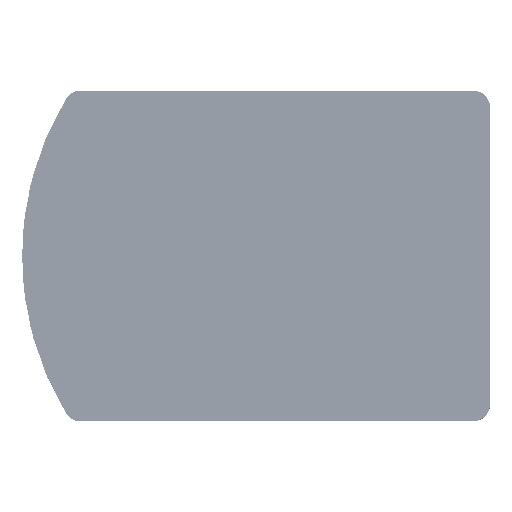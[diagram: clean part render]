
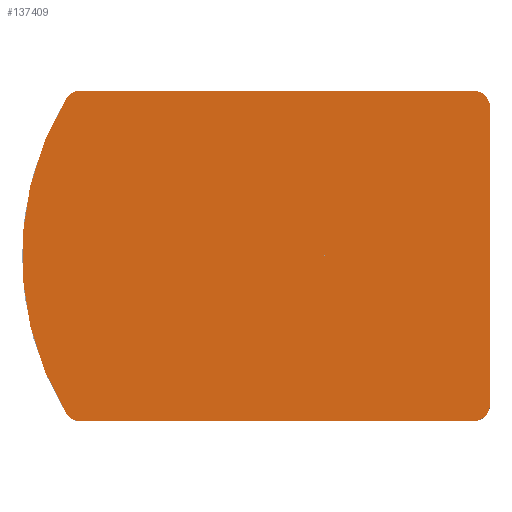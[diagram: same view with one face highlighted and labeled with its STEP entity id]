
A CAD part, top view. The second image highlights one B-rep face of the part: STEP entity #137409.
In plain terms, the highlighted planar face has unit normal (0, 0, 1) as drawn and (0, 0, -1) by its records, which use the part's own axes.
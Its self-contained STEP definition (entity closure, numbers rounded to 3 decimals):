
#8089 = DIRECTION ( 'NONE',  ( -1., 0., 0. ) ) ;
#11737 = VERTEX_POINT ( 'NONE', #260368 ) ;
#16893 = FACE_BOUND ( 'NONE', #127861, .T. ) ;
#17107 = AXIS2_PLACEMENT_3D ( 'NONE', #189164, #230365, #42558 ) ;
#19946 = AXIS2_PLACEMENT_3D ( 'NONE', #263953, #54088, #177717 ) ;
#26245 = ORIENTED_EDGE ( 'NONE', *, *, #205110, .T. ) ;
#28155 = AXIS2_PLACEMENT_3D ( 'NONE', #71373, #238922, #8089 ) ;
#38801 = LINE ( 'NONE', #141262, #114301 ) ;
#42558 = DIRECTION ( 'NONE',  ( -1., 0., 0. ) ) ;
#43201 = AXIS2_PLACEMENT_3D ( 'NONE', #166965, #229181, #271495 ) ;
#48587 = ORIENTED_EDGE ( 'NONE', *, *, #105231, .T. ) ;
#51389 = CIRCLE ( 'NONE', #188074, 0.1 ) ;
#54088 = DIRECTION ( 'NONE',  ( 0., 0., -1. ) ) ;
#55251 = VERTEX_POINT ( 'NONE', #66344 ) ;
#55741 = CARTESIAN_POINT ( 'NONE',  ( 82., 60., 0. ) ) ;
#63486 = EDGE_CURVE ( 'NONE', #55251, #154496, #178010, .T. ) ;
#65029 = CIRCLE ( 'NONE', #203639, 55. ) ;
#66344 = CARTESIAN_POINT ( 'NONE',  ( 7.995, 58.558, 0. ) ) ;
#66940 = CIRCLE ( 'NONE', #28155, 3. ) ;
#71373 = CARTESIAN_POINT ( 'NONE',  ( 82., 57., 0. ) ) ;
#74088 = VECTOR ( 'NONE', #220156, 1000. ) ;
#76250 = DIRECTION ( 'NONE',  ( -1., 0., 0. ) ) ;
#77637 = LINE ( 'NONE', #222692, #153100 ) ;
#87575 = ORIENTED_EDGE ( 'NONE', *, *, #166259, .T. ) ;
#92368 = CARTESIAN_POINT ( 'NONE',  ( 55., 30., 0. ) ) ;
#95729 = ORIENTED_EDGE ( 'NONE', *, *, #149071, .F. ) ;
#97232 = EDGE_CURVE ( 'NONE', #11737, #220437, #225072, .T. ) ;
#97835 = CARTESIAN_POINT ( 'NONE',  ( 10.559, 0., 0. ) ) ;
#98342 = VERTEX_POINT ( 'NONE', #231907 ) ;
#98791 = EDGE_LOOP ( 'NONE', ( #196111, #87575, #95729, #138338, #218600, #26245, #248251, #231695 ) ) ;
#105231 = EDGE_CURVE ( 'NONE', #98342, #154173, #51389, .T. ) ;
#105629 = EDGE_CURVE ( 'NONE', #206149, #220437, #162613, .T. ) ;
#109682 = CARTESIAN_POINT ( 'NONE',  ( 7.995, 1.442, 0. ) ) ;
#114301 = VECTOR ( 'NONE', #182319, 1000. ) ;
#115049 = DIRECTION ( 'NONE',  ( -1., 0., 0. ) ) ;
#127861 = EDGE_LOOP ( 'NONE', ( #48587, #268183 ) ) ;
#131254 = PLANE ( 'NONE',  #242823 ) ;
#133725 = DIRECTION ( 'NONE',  ( 1., 0., 0. ) ) ;
#135247 = DIRECTION ( 'NONE',  ( 0., 0., -1. ) ) ;
#137409 = ADVANCED_FACE ( 'NONE', ( #16893, #170983 ), #131254, .T. ) ;
#138161 = CARTESIAN_POINT ( 'NONE',  ( 82., 0., 0. ) ) ;
#138338 = ORIENTED_EDGE ( 'NONE', *, *, #63486, .T. ) ;
#139067 = DIRECTION ( 'NONE',  ( 0., 0., 1. ) ) ;
#141262 = CARTESIAN_POINT ( 'NONE',  ( 85., 0., 0. ) ) ;
#141781 = CARTESIAN_POINT ( 'NONE',  ( 55., 30., 0. ) ) ;
#142034 = DIRECTION ( 'NONE',  ( 1., 0., 0. ) ) ;
#142875 = EDGE_CURVE ( 'NONE', #11737, #205740, #38801, .T. ) ;
#149071 = EDGE_CURVE ( 'NONE', #55251, #258892, #65029, .T. ) ;
#153100 = VECTOR ( 'NONE', #76250, 1000. ) ;
#154173 = VERTEX_POINT ( 'NONE', #195542 ) ;
#154496 = VERTEX_POINT ( 'NONE', #249526 ) ;
#155265 = CARTESIAN_POINT ( 'NONE',  ( 0., 0., 0. ) ) ;
#159185 = VERTEX_POINT ( 'NONE', #55741 ) ;
#162613 = LINE ( 'NONE', #202707, #74088 ) ;
#163643 = CIRCLE ( 'NONE', #269930, 0.1 ) ;
#166259 = EDGE_CURVE ( 'NONE', #206149, #258892, #266299, .T. ) ;
#166965 = CARTESIAN_POINT ( 'NONE',  ( 82., 3., 0. ) ) ;
#170983 = FACE_OUTER_BOUND ( 'NONE', #98791, .T. ) ;
#177717 = DIRECTION ( 'NONE',  ( -1., 0., 0. ) ) ;
#178010 = CIRCLE ( 'NONE', #19946, 3. ) ;
#182319 = DIRECTION ( 'NONE',  ( 0., 1., 0. ) ) ;
#183743 = DIRECTION ( 'NONE',  ( 1., 0., 0. ) ) ;
#188074 = AXIS2_PLACEMENT_3D ( 'NONE', #141781, #139067, #183743 ) ;
#189164 = CARTESIAN_POINT ( 'NONE',  ( 10.559, 3., 0. ) ) ;
#195542 = CARTESIAN_POINT ( 'NONE',  ( 55.1, 30., 0. ) ) ;
#196111 = ORIENTED_EDGE ( 'NONE', *, *, #105629, .F. ) ;
#196753 = DIRECTION ( 'NONE',  ( 0., 0., 1. ) ) ;
#197444 = EDGE_CURVE ( 'NONE', #159185, #154496, #77637, .T. ) ;
#202707 = CARTESIAN_POINT ( 'NONE',  ( 0., 0., 0. ) ) ;
#203333 = EDGE_CURVE ( 'NONE', #154173, #98342, #163643, .T. ) ;
#203639 = AXIS2_PLACEMENT_3D ( 'NONE', #246406, #223459, #142034 ) ;
#205110 = EDGE_CURVE ( 'NONE', #159185, #205740, #66940, .T. ) ;
#205740 = VERTEX_POINT ( 'NONE', #271340 ) ;
#206149 = VERTEX_POINT ( 'NONE', #97835 ) ;
#218600 = ORIENTED_EDGE ( 'NONE', *, *, #197444, .F. ) ;
#220156 = DIRECTION ( 'NONE',  ( 1., 0., 0. ) ) ;
#220437 = VERTEX_POINT ( 'NONE', #138161 ) ;
#222692 = CARTESIAN_POINT ( 'NONE',  ( 0., 60., 0. ) ) ;
#223459 = DIRECTION ( 'NONE',  ( 0., 0., 1. ) ) ;
#225072 = CIRCLE ( 'NONE', #43201, 3. ) ;
#229181 = DIRECTION ( 'NONE',  ( 0., 0., -1. ) ) ;
#230365 = DIRECTION ( 'NONE',  ( 0., 0., -1. ) ) ;
#231695 = ORIENTED_EDGE ( 'NONE', *, *, #97232, .T. ) ;
#231907 = CARTESIAN_POINT ( 'NONE',  ( 54.9, 30., 0. ) ) ;
#238922 = DIRECTION ( 'NONE',  ( 0., 0., -1. ) ) ;
#242823 = AXIS2_PLACEMENT_3D ( 'NONE', #155265, #135247, #115049 ) ;
#246406 = CARTESIAN_POINT ( 'NONE',  ( 55., 30., 0. ) ) ;
#248251 = ORIENTED_EDGE ( 'NONE', *, *, #142875, .F. ) ;
#249526 = CARTESIAN_POINT ( 'NONE',  ( 10.559, 60., 0. ) ) ;
#258892 = VERTEX_POINT ( 'NONE', #109682 ) ;
#260368 = CARTESIAN_POINT ( 'NONE',  ( 85., 3., 0. ) ) ;
#263953 = CARTESIAN_POINT ( 'NONE',  ( 10.559, 57., 0. ) ) ;
#266299 = CIRCLE ( 'NONE', #17107, 3. ) ;
#268183 = ORIENTED_EDGE ( 'NONE', *, *, #203333, .T. ) ;
#269930 = AXIS2_PLACEMENT_3D ( 'NONE', #92368, #196753, #133725 ) ;
#271340 = CARTESIAN_POINT ( 'NONE',  ( 85., 57., 0. ) ) ;
#271495 = DIRECTION ( 'NONE',  ( -1., 0., 0. ) ) ;
